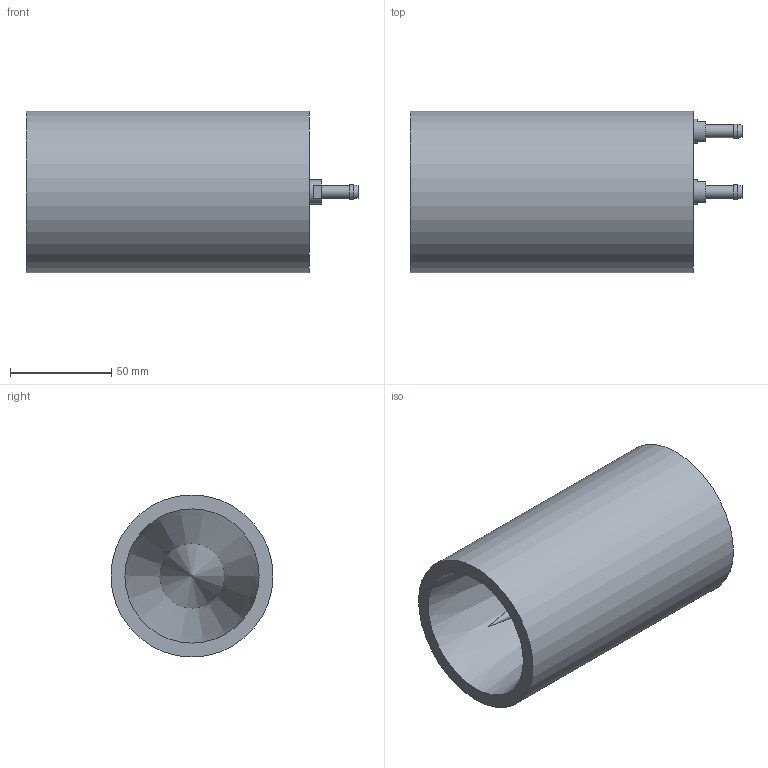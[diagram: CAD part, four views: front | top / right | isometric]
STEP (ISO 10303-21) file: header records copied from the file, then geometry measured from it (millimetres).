
FILE_DESCRIPTION(/* description */ (''),/* implementation_level */ '2;1');
FILE_NAME(/* name */ 'U:\KONSTRUKTORIAI\! ! ! BENDRAS ! ! !\Darius\Darius\Schemos\10\10BDWC01-2\step\10BDWC01-2.STEP',/* time_stamp */ '2017-01-13T12:01:08+02:00',/* author */ ('dsgn31'),/* organization */ (''),/* preprocessor_version */ 'ST-DEVELOPER v15.2',/* originating_system */ 'Autodesk Inventor 2014',/* authorisation */ '');
FILE_SCHEMA (('AUTOMOTIVE_DESIGN { 1 0 10303 214 3 1 1 }'));
Length unit declared in the file: inch
Products named in the file (1): 10BDWC01-2_Shrinkwrap_1
Bounding box: 164 x 80 x 80 mm (x, y, z)
Volume: 490481.5 mm3; surface area: 75138.5 mm2
Topology: 1 solids, 13 shells, 161 faces, 328 edges, 216 vertices
Faces by surface type: plane 92, cylinder 48, cone 14, torus 6, sphere 1
Full cylindrical faces by diameter (mm): 3 x6, 3.5 x6, 4 x2, 4.917 x1, 5.5 x6, 6 x6, 6.3 x4, 6.647 x4, 7 x2, 10 x2, 12 x3, 23 x1, 28 x1, 70.5 x1, 74 x1, 75.221 x1, 80 x1
Entity records: 3843 total; most frequent: CARTESIAN_POINT 670, DIRECTION 644, ORIENTED_EDGE 480, AXIS2_PLACEMENT_3D 278, EDGE_LOOP 276, EDGE_CURVE 240, VERTEX_POINT 196, ADVANCED_FACE 161
